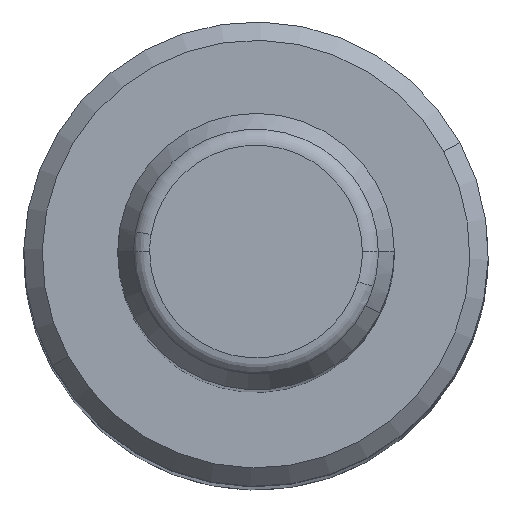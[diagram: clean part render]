
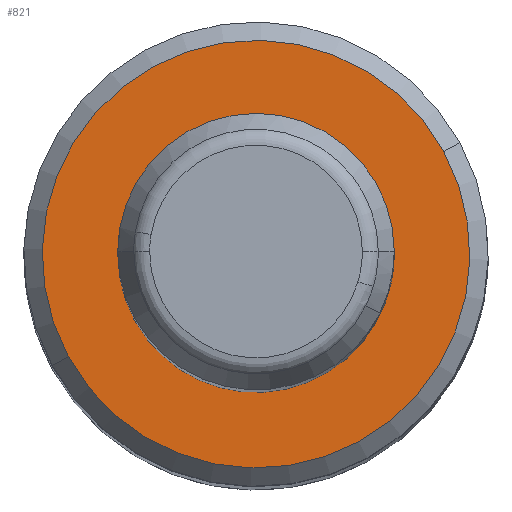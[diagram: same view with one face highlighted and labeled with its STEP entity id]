
A CAD part, top view. The second image highlights one B-rep face of the part: STEP entity #821.
In plain terms, the highlighted planar face has unit normal (0, 0, 1).
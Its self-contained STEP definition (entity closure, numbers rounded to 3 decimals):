
#769=CARTESIAN_POINT('Axis2P3D Location',(0.,0.,114.)) ;
#773=CARTESIAN_POINT('Vertex',(10.18,5.561,114.)) ;
#775=CARTESIAN_POINT('Vertex',(-10.18,-5.561,114.)) ;
#800=CARTESIAN_POINT('Axis2P3D Location',(0.,0.,114.)) ;
#812=CARTESIAN_POINT('Axis2P3D Location',(11.6,0.,114.)) ;
#770=DIRECTION('Axis2P3D Direction',(0.,0.,-1.)) ;
#801=DIRECTION('Axis2P3D Direction',(0.,0.,-1.)) ;
#813=DIRECTION('Axis2P3D Direction',(0.,0.,1.)) ;
#814=DIRECTION('Axis2P3D XDirection',(1.,0.,0.)) ;
#771=AXIS2_PLACEMENT_3D('Circle Axis2P3D',#769,#770,$) ;
#802=AXIS2_PLACEMENT_3D('Circle Axis2P3D',#800,#801,$) ;
#815=AXIS2_PLACEMENT_3D('Plane Axis2P3D',#812,#813,#814) ;
#818=ORIENTED_EDGE('',*,*,#777,.T.) ;
#819=ORIENTED_EDGE('',*,*,#804,.T.) ;
#821=ADVANCED_FACE('',(#820),#816,.T.) ;
#772=CIRCLE('generated circle',#771,11.6) ;
#803=CIRCLE('generated circle',#802,11.6) ;
#777=EDGE_CURVE('',#774,#776,#772,.F.) ;
#804=EDGE_CURVE('',#776,#774,#803,.F.) ;
#817=EDGE_LOOP('',(#818,#819)) ;
#820=FACE_OUTER_BOUND('',#817,.T.) ;
#816=PLANE('Plane',#815) ;
#774=VERTEX_POINT('',#773) ;
#776=VERTEX_POINT('',#775) ;
